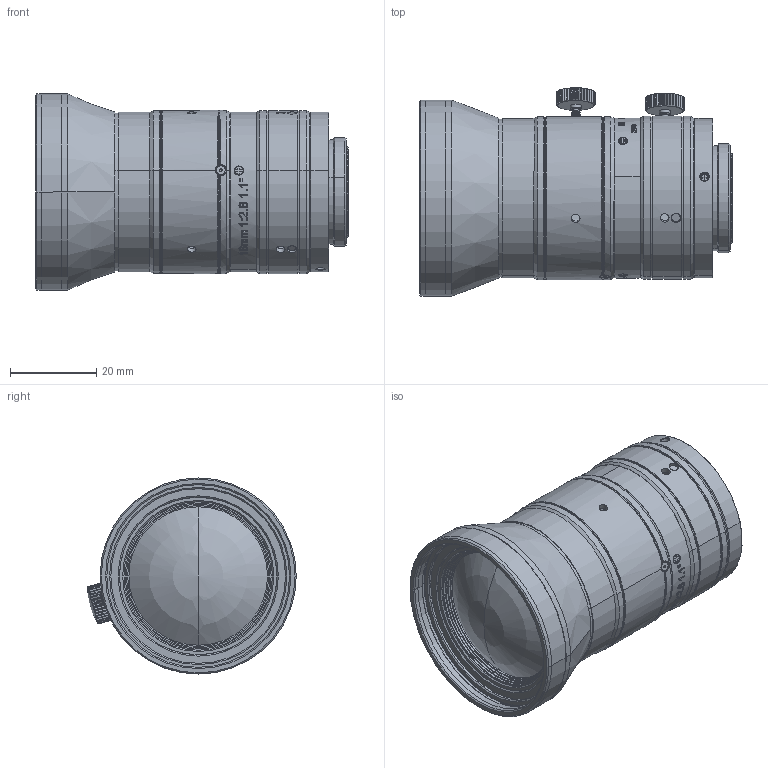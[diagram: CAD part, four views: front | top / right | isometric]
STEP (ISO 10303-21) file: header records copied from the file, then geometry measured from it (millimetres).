
FILE_DESCRIPTION((''),'2;1');
FILE_NAME('200_ASM','2023-09-26T13:56:56',('user'),(''),'CREO PARAMETRIC BY PTC INC, 2022073','CREO PARAMETRIC BY PTC INC, 2022073','');
FILE_SCHEMA(('CONFIG_CONTROL_DESIGN'));
Length unit declared in the file: millimetre
Products named in the file (82): 504_AF0; 501_AF0; JP_AF0; GQ_AF0; 201_AF0_ASM; 502_AF0; JP2_AF0; GQ2_AF0; 202_AF0_ASM; 503_AF0; JP3_AF0; 203_AF0_ASM; 505_AF0; 506_AF0; 508_AF0; 507_AF0; 509_AF0; FA1625A-522_AF0; M14402001_AF0; FA1625A-522_AF1; M14402001_AF1; FA1625A-522_AF2; M14402001_AF2; FA1625A-522_AF3; M14402001_AF3; FA1625A-522_AF4; M14402001_AF4; FA1625A-522_AF5; M14402001_AF5; M14352001_AF0; M14352001_AF1; M14352001_AF2; M144020011_AF0; M144020011_AF1; M144020011_AF2; M144020011_AF3; M144020011_AF4; M144020011_AF5; PRT0001_AF0; PRT0001_AF1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
Assembly tree (81 placements, depth 5):
  200_ASM
    504_AF0
    201_AF0_ASM
      501_AF0
      JP_AF0
      GQ_AF0
    202_AF0_ASM
      502_AF0
      JP2_AF0
      GQ2_AF0
    203_AF0_ASM
      503_AF0
      JP3_AF0
    505_AF0
    506_AF0
    508_AF0
    507_AF0
    509_AF0
    FA1625A-522_AF0
    M14402001_AF0
    FA1625A-522_AF1
    M14402001_AF1
    FA1625A-522_AF2
    M14402001_AF2
    FA1625A-522_AF3
    M14402001_AF3
    FA1625A-522_AF4
    M14402001_AF4
    FA1625A-522_AF5
    M14402001_AF5
    M14352001_AF0
    M14352001_AF1
    M14352001_AF2
    M144020011_AF0
    M144020011_AF1
    M144020011_AF2
    M144020011_AF3
    M144020011_AF4
    M144020011_AF5
    MA083-00-11_AF0_ASM
      ASM0002_AF0_ASM
        MA083-01-01_AF0_ASM
          PRT0001_AF0
          PRT0001_AF1
          PRT0002_AF0
        MA083-01-01_AF1_ASM
          PRT0001_AF2
          PRT0001_AF3
          PRT0002_AF1
        MA083-01-01_AF2_ASM
          PRT0001_AF4
          PRT0001_AF5
          PRT0002_AF2
        PRT0003_AF0
        MA083-01-01_AF3_ASM
          PRT0001_AF6
          PRT0001_AF7
          PRT0002_AF3
        MA083-02-18_AF0
        MA083-01-01_AF4_ASM
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Bounding box: 72.73 x 48.48 x 45.6 mm (x, y, z)
Volume: 15988.9 mm3; surface area: 27122.2 mm2
Topology: 24 solids, 26 shells, 1529 faces, 3896 edges, 2501 vertices
Faces by surface type: plane 497, bspline 470, cylinder 389, cone 163, sphere 8, torus 2
Entity records: 72189 total; most frequent: CARTESIAN_POINT 36330, ORIENTED_EDGE 7764, DIRECTION 6211, EDGE_CURVE 3886, VERTEX_POINT 2501, AXIS2_PLACEMENT_3D 2308, EDGE_LOOP 1687, VECTOR 1595
